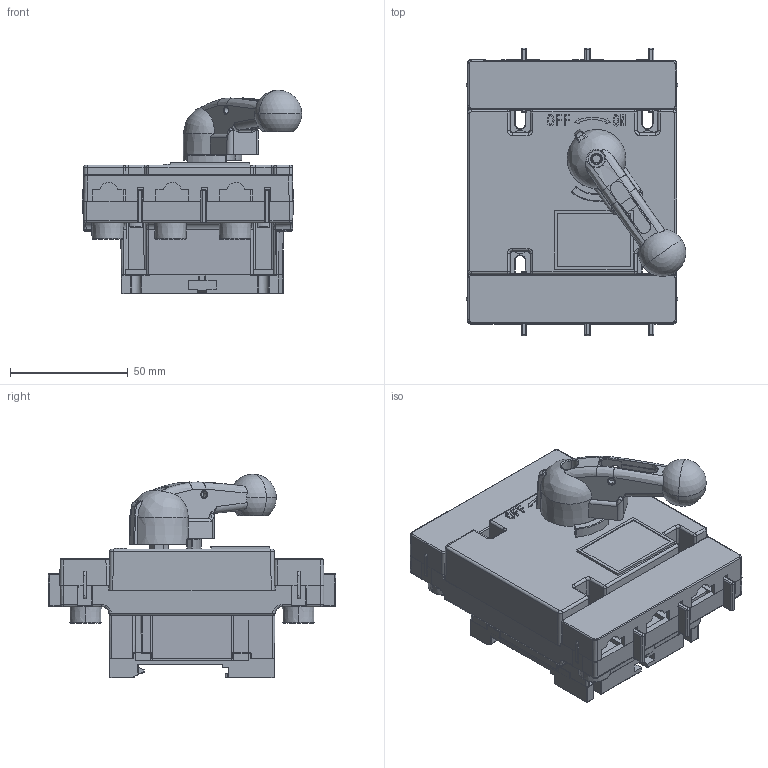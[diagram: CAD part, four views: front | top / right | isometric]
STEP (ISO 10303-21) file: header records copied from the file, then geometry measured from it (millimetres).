
FILE_DESCRIPTION((''),'2;1');
FILE_NAME('NH40-16_100-3_3P_202510_ASM','2025-03-28T',('zhuanghy'),(''),'CREO PARAMETRIC BY PTC INC, 2018070','CREO PARAMETRIC BY PTC INC, 2018070','');
FILE_SCHEMA(('AUTOMOTIVE_DESIGN { 1 0 10303 214 1 1 1 1 }'));
Products named in the file (14): PRT0081_1_1_2; PRT0082_1_2; ASM0037_ASM_1_ASM; PRT0083_1_2; PRT0084_1_2; PRT0085_1_2; ASM0036_ASM_1_ASM; ASM0035_ASM_1_ASM; ASM0034_ASM_1_ASM; ASM0033_ASM_1_ASM; PRT0001_1_1_2; PRT0003; PRT0004; NH40-16_100-3_3P_202510_ASM
Assembly tree (18 placements, depth 7):
  NH40-16_100-3_3P_202510_ASM
    ASM0033_ASM_1_ASM
      ASM0034_ASM_1_ASM
        ASM0035_ASM_1_ASM
          ASM0036_ASM_1_ASM
            ASM0037_ASM_1_ASM
              PRT0081_1_1_2
              PRT0082_1_2
            PRT0083_1_2
            PRT0084_1_2  x6
            PRT0085_1_2
    PRT0001_1_1_2
    PRT0003
    PRT0004
Bounding box: 93.09 x 122.14 x 86.36 mm (x, y, z)
Volume: 301758.2 mm3; surface area: 143411.4 mm2
Topology: 13 solids, 14 shells, 2314 faces, 6396 edges, 4048 vertices
Faces by surface type: plane 1374, cylinder 634, sphere 108, torus 94, bspline 69, cone 35
Entity records: 75030 total; most frequent: CARTESIAN_POINT 19108, ORIENTED_EDGE 11726, DIRECTION 10652, EDGE_CURVE 5863, VECTOR 4064, LINE 4064, VERTEX_POINT 3758, AXIS2_PLACEMENT_3D 3294
